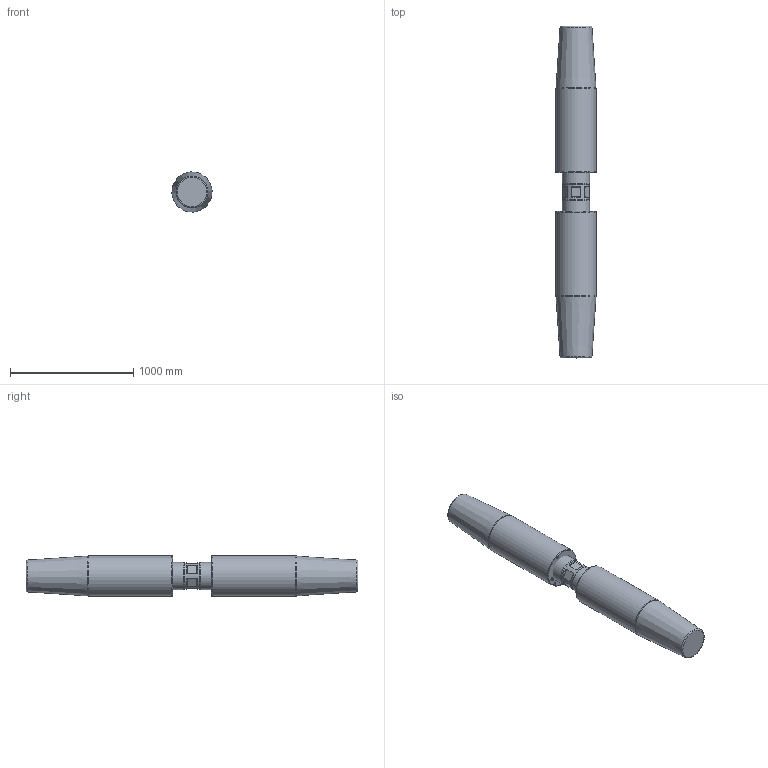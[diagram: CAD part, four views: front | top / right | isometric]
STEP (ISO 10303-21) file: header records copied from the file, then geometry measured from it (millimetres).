
FILE_DESCRIPTION(/* description */ (''),/* implementation_level */ '2;1');
FILE_NAME(/* name */ 'D:\Clienti\Redaelli (inventor)\CYA\STEP\Arrangement\CYA112 52 061 2.stp',/* time_stamp */ '2021-05-09T10:37:11+02:00',/* author */ ('fabri'),/* organization */ (''),/* preprocessor_version */ 'ST-DEVELOPER v16.13',/* originating_system */ 'Autodesk Inventor 2018',/* authorisation */ '');
FILE_SCHEMA (('AUTOMOTIVE_DESIGN { 1 0 10303 214 3 1 1 }'));
Length unit declared in the file: millimetre
Products named in the file (4): CYA012-54-062-0; TBF012-12-012-1; TBF012-13-012-0; TBF012-13-012-0_1
Assembly tree (3 placements, depth 2):
  CYA012-54-062-0
    TBF012-12-012-1
    TBF012-13-012-0
    TBF012-13-012-0_1
Bounding box: 324.8 x 2690 x 324.8 mm (x, y, z)
Volume: 224218178.7 mm3; surface area: 3472979.4 mm2
Topology: 3 solids, 3 shells, 475 faces, 1281 edges, 852 vertices
Faces by surface type: plane 237, bspline 195, cylinder 25, cone 14, torus 4
Full cylindrical faces by diameter (mm): 17.294 x8, 214 x1, 220 x2, 325 x2
Entity records: 16129 total; most frequent: CARTESIAN_POINT 5589, ORIENTED_EDGE 2484, DIRECTION 1444, EDGE_CURVE 1242, VERTEX_POINT 844, LINE 790, VECTOR 790, EDGE_LOOP 546
